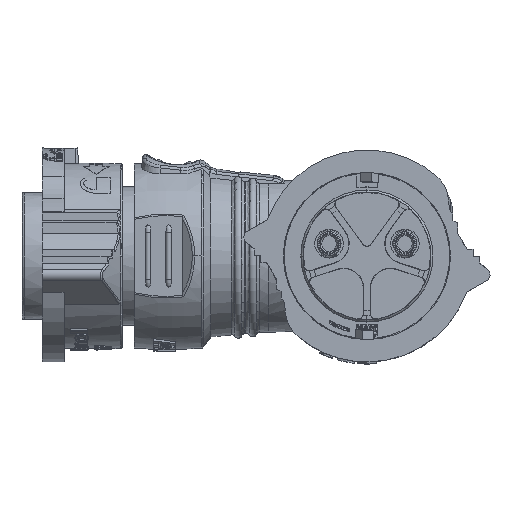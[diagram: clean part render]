
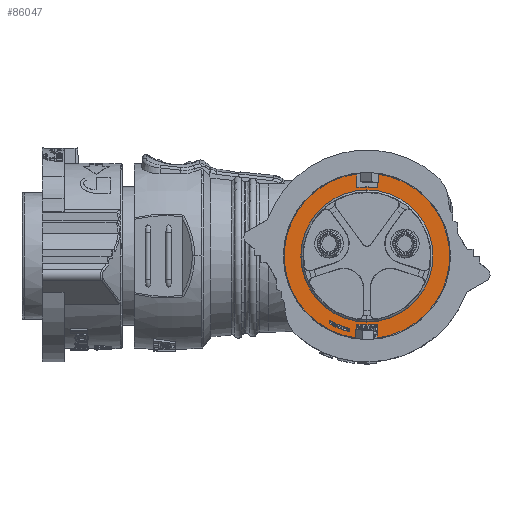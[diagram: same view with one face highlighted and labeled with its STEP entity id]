
A CAD part, left-side view. The second image highlights one B-rep face of the part: STEP entity #86047.
In plain terms, the highlighted planar face has unit normal (-1, 0, 0).
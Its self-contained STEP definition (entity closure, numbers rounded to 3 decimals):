
#31057=DIRECTION('',(0.,0.,1.));
#31058=VECTOR('',#31057,2.019);
#31059=CARTESIAN_POINT('',(8.25,-1.5,-12.007));
#31060=LINE('',#31059,#31058);
#31061=CARTESIAN_POINT('',(8.25,0.,0.));
#31062=DIRECTION('',(1.,0.,0.));
#31063=DIRECTION('',(0.,-0.149,-0.989));
#31064=AXIS2_PLACEMENT_3D('',#31061,#31062,#31063);
#31066=DIRECTION('',(0.,0.,1.));
#31067=VECTOR('',#31066,2.019);
#31068=CARTESIAN_POINT('',(8.25,1.5,-12.007));
#31069=LINE('',#31068,#31067);
#31070=DIRECTION('',(0.,0.,-1.));
#31071=VECTOR('',#31070,2.019);
#31072=CARTESIAN_POINT('',(8.25,1.5,12.007));
#31073=LINE('',#31072,#31071);
#31074=CARTESIAN_POINT('',(8.25,0.,0.));
#31075=DIRECTION('',(1.,0.,0.));
#31076=DIRECTION('',(0.,0.149,0.989));
#31077=AXIS2_PLACEMENT_3D('',#31074,#31075,#31076);
#31079=DIRECTION('',(0.,0.,-1.));
#31080=VECTOR('',#31079,2.019);
#31081=CARTESIAN_POINT('',(8.25,-1.5,12.007));
#31082=LINE('',#31081,#31080);
#31083=DIRECTION('',(0.,0.,-1.));
#31084=VECTOR('',#31083,0.547);
#31085=CARTESIAN_POINT('',(8.25,5.5,-9.382));
#31086=LINE('',#31085,#31084);
#31087=CARTESIAN_POINT('',(8.25,0.,0.));
#31088=DIRECTION('',(-1.,0.,0.));
#31089=DIRECTION('',(0.,0.485,-0.875));
#31090=AXIS2_PLACEMENT_3D('',#31087,#31088,#31089);
#31092=DIRECTION('',(0.,0.,1.));
#31093=VECTOR('',#31092,0.488);
#31094=CARTESIAN_POINT('',(8.25,2.5,-11.071));
#31095=LINE('',#31094,#31093);
#31096=CARTESIAN_POINT('',(8.25,0.,0.));
#31097=DIRECTION('',(-1.,0.,0.));
#31098=DIRECTION('',(0.,0.506,-0.863));
#31099=AXIS2_PLACEMENT_3D('',#31096,#31097,#31098);
#31101=DIRECTION('',(0.,1.,0.));
#31102=VECTOR('',#31101,0.075);
#31103=CARTESIAN_POINT('',(8.25,-9.437,0.5));
#31104=LINE('',#31103,#31102);
#31105=DIRECTION('',(0.,0.,1.));
#31106=VECTOR('',#31105,0.075);
#31107=CARTESIAN_POINT('',(8.25,-0.5,9.362));
#31108=LINE('',#31107,#31106);
#31109=CARTESIAN_POINT('',(8.25,0.,0.));
#31110=DIRECTION('',(-1.,0.,0.));
#31111=DIRECTION('',(0.,-0.053,0.999));
#31112=AXIS2_PLACEMENT_3D('',#31109,#31110,#31111);
#31114=DIRECTION('',(0.,0.,-1.));
#31115=VECTOR('',#31114,0.075);
#31116=CARTESIAN_POINT('',(8.25,0.5,9.437));
#31117=LINE('',#31116,#31115);
#31118=DIRECTION('',(0.,1.,0.));
#31119=VECTOR('',#31118,0.075);
#31120=CARTESIAN_POINT('',(8.25,9.362,0.5));
#31121=LINE('',#31120,#31119);
#31122=CARTESIAN_POINT('',(8.25,0.,0.));
#31123=DIRECTION('',(-1.,0.,0.));
#31124=DIRECTION('',(0.,0.999,0.053));
#31125=AXIS2_PLACEMENT_3D('',#31122,#31123,#31124);
#31127=DIRECTION('',(0.,-1.,0.));
#31128=VECTOR('',#31127,0.075);
#31129=CARTESIAN_POINT('',(8.25,9.437,-0.5));
#31130=LINE('',#31129,#31128);
#31131=DIRECTION('',(0.,0.,-1.));
#31132=VECTOR('',#31131,0.075);
#31133=CARTESIAN_POINT('',(8.25,0.5,-9.362));
#31134=LINE('',#31133,#31132);
#31135=CARTESIAN_POINT('',(8.25,0.,0.));
#31136=DIRECTION('',(-1.,0.,0.));
#31137=DIRECTION('',(0.,0.053,-0.999));
#31138=AXIS2_PLACEMENT_3D('',#31135,#31136,#31137);
#31140=DIRECTION('',(0.,0.,1.));
#31141=VECTOR('',#31140,0.075);
#31142=CARTESIAN_POINT('',(8.25,-0.5,-9.437));
#31143=LINE('',#31142,#31141);
#31144=DIRECTION('',(0.,-1.,0.));
#31145=VECTOR('',#31144,0.075);
#31146=CARTESIAN_POINT('',(8.25,-9.362,-0.5));
#31147=LINE('',#31146,#31145);
#31148=CARTESIAN_POINT('',(8.25,0.,0.));
#31149=DIRECTION('',(-1.,0.,0.));
#31150=DIRECTION('',(0.,-0.999,-0.053));
#31151=AXIS2_PLACEMENT_3D('',#31148,#31149,#31150);
#31153=CARTESIAN_POINT('',(8.25,0.,0.));
#31154=DIRECTION('',(-1.,0.,0.));
#31155=DIRECTION('',(0.,-0.124,-0.992));
#31156=AXIS2_PLACEMENT_3D('',#31153,#31154,#31155);
#31243=CARTESIAN_POINT('',(8.25,0.,0.));
#31244=DIRECTION('',(1.,0.,0.));
#31245=DIRECTION('',(0.,0.124,-0.992));
#31246=AXIS2_PLACEMENT_3D('',#31243,#31244,#31245);
#43931=CARTESIAN_POINT('',(8.25,-9.437,0.5));
#43990=CARTESIAN_POINT('',(8.25,-9.362,0.5));
#44003=CARTESIAN_POINT('',(8.25,-0.5,9.362));
#44005=CARTESIAN_POINT('',(8.25,0.,0.));
#44006=DIRECTION('',(1.,0.,0.));
#44007=DIRECTION('',(0.,-0.053,0.999));
#44008=AXIS2_PLACEMENT_3D('',#44005,#44006,#44007);
#44010=CARTESIAN_POINT('',(8.25,-0.5,9.437));
#44017=CARTESIAN_POINT('',(8.25,0.5,9.437));
#44024=CARTESIAN_POINT('',(8.25,0.5,9.362));
#44037=CARTESIAN_POINT('',(8.25,9.362,0.5));
#44039=CARTESIAN_POINT('',(8.25,0.,0.));
#44040=DIRECTION('',(1.,0.,0.));
#44041=DIRECTION('',(0.,0.999,0.053));
#44042=AXIS2_PLACEMENT_3D('',#44039,#44040,#44041);
#44044=CARTESIAN_POINT('',(8.25,9.437,0.5));
#44051=CARTESIAN_POINT('',(8.25,9.437,-0.5));
#44058=CARTESIAN_POINT('',(8.25,9.362,-0.5));
#44068=CARTESIAN_POINT('',(8.25,0.5,-9.362));
#44073=CARTESIAN_POINT('',(8.25,0.,0.));
#44074=DIRECTION('',(1.,0.,0.));
#44075=DIRECTION('',(0.,0.053,-0.999));
#44076=AXIS2_PLACEMENT_3D('',#44073,#44074,#44075);
#44095=CARTESIAN_POINT('',(8.25,-9.362,-0.5));
#44097=CARTESIAN_POINT('',(8.25,0.,0.));
#44098=DIRECTION('',(1.,0.,0.));
#44099=DIRECTION('',(0.,-0.999,-0.053));
#44100=AXIS2_PLACEMENT_3D('',#44097,#44098,#44099);
#44105=CARTESIAN_POINT('',(8.25,-0.5,-9.362));
#44112=CARTESIAN_POINT('',(8.25,-9.437,-0.5));
#61430=CARTESIAN_POINT('',(8.25,-1.5,-12.007));
#61431=CARTESIAN_POINT('',(8.25,-1.5,12.007));
#61432=VERTEX_POINT('',#61430);
#61433=VERTEX_POINT('',#61431);
#61442=CARTESIAN_POINT('',(8.25,1.5,-12.007));
#61443=CARTESIAN_POINT('',(8.25,1.5,12.007));
#61444=VERTEX_POINT('',#61442);
#61445=VERTEX_POINT('',#61443);
#61494=CARTESIAN_POINT('',(8.25,5.5,-9.382));
#61495=CARTESIAN_POINT('',(8.25,5.5,-9.928));
#61496=VERTEX_POINT('',#61494);
#61497=VERTEX_POINT('',#61495);
#61498=CARTESIAN_POINT('',(8.25,2.5,-11.071));
#61499=VERTEX_POINT('',#61498);
#61500=CARTESIAN_POINT('',(8.25,2.5,-10.584));
#61501=VERTEX_POINT('',#61500);
#61508=CARTESIAN_POINT('',(8.25,1.5,9.988));
#61509=CARTESIAN_POINT('',(8.25,-1.5,9.988));
#61510=VERTEX_POINT('',#61508);
#61511=VERTEX_POINT('',#61509);
#61512=CARTESIAN_POINT('',(8.25,-1.5,-9.988));
#61513=VERTEX_POINT('',#61512);
#61514=CARTESIAN_POINT('',(8.25,1.5,-9.988));
#61515=VERTEX_POINT('',#61514);
#61657=VERTEX_POINT('',#44105);
#61658=VERTEX_POINT('',#44068);
#61664=CARTESIAN_POINT('',(8.25,-0.5,-9.437));
#61665=VERTEX_POINT('',#61664);
#61666=CARTESIAN_POINT('',(8.25,0.5,-9.437));
#61667=VERTEX_POINT('',#61666);
#61668=VERTEX_POINT('',#44058);
#61671=VERTEX_POINT('',#44037);
#61676=VERTEX_POINT('',#44051);
#61677=VERTEX_POINT('',#44044);
#61678=VERTEX_POINT('',#44024);
#61681=VERTEX_POINT('',#44003);
#61686=VERTEX_POINT('',#44017);
#61687=VERTEX_POINT('',#44010);
#61688=VERTEX_POINT('',#43990);
#61691=VERTEX_POINT('',#44095);
#61696=VERTEX_POINT('',#43931);
#61697=VERTEX_POINT('',#44112);
#85984=CARTESIAN_POINT('',(8.25,0.,0.));
#85985=DIRECTION('',(-1.,0.,0.));
#85986=DIRECTION('',(0.,0.,1.));
#85987=AXIS2_PLACEMENT_3D('',#85984,#85985,#85986);
#85988=PLANE('',#85987);
#85990=ORIENTED_EDGE('',*,*,#85989,.F.);
#85992=ORIENTED_EDGE('',*,*,#85991,.T.);
#85993=ORIENTED_EDGE('',*,*,#85072,.T.);
#85995=ORIENTED_EDGE('',*,*,#85994,.F.);
#85997=ORIENTED_EDGE('',*,*,#85996,.T.);
#85999=ORIENTED_EDGE('',*,*,#85998,.T.);
#86000=ORIENTED_EDGE('',*,*,#85080,.T.);
#86002=ORIENTED_EDGE('',*,*,#86001,.F.);
#86003=EDGE_LOOP('',(#85990,#85992,#85993,#85995,#85997,#85999,#86000,#86002));
#86004=FACE_OUTER_BOUND('',#86003,.F.);
#86005=ORIENTED_EDGE('',*,*,#85975,.T.);
#86007=ORIENTED_EDGE('',*,*,#86006,.T.);
#86009=ORIENTED_EDGE('',*,*,#86008,.T.);
#86010=ORIENTED_EDGE('',*,*,#85918,.F.);
#86011=EDGE_LOOP('',(#86005,#86007,#86009,#86010));
#86012=FACE_BOUND('',#86011,.F.);
#86014=ORIENTED_EDGE('',*,*,#86013,.T.);
#86016=ORIENTED_EDGE('',*,*,#86015,.F.);
#86018=ORIENTED_EDGE('',*,*,#86017,.T.);
#86020=ORIENTED_EDGE('',*,*,#86019,.T.);
#86022=ORIENTED_EDGE('',*,*,#86021,.T.);
#86024=ORIENTED_EDGE('',*,*,#86023,.F.);
#86026=ORIENTED_EDGE('',*,*,#86025,.T.);
#86028=ORIENTED_EDGE('',*,*,#86027,.T.);
#86030=ORIENTED_EDGE('',*,*,#86029,.T.);
#86032=ORIENTED_EDGE('',*,*,#86031,.F.);
#86034=ORIENTED_EDGE('',*,*,#86033,.T.);
#86036=ORIENTED_EDGE('',*,*,#86035,.T.);
#86038=ORIENTED_EDGE('',*,*,#86037,.T.);
#86040=ORIENTED_EDGE('',*,*,#86039,.F.);
#86042=ORIENTED_EDGE('',*,*,#86041,.T.);
#86044=ORIENTED_EDGE('',*,*,#86043,.T.);
#86045=EDGE_LOOP('',(#86014,#86016,#86018,#86020,#86022,#86024,#86026,#86028,
#86030,#86032,#86034,#86036,#86038,#86040,#86042,#86044));
#86046=FACE_BOUND('',#86045,.F.);
#86047=ADVANCED_FACE('',(#86004,#86012,#86046),#85988,.T.);
#31065=CIRCLE('',#31064,10.1);
#31078=CIRCLE('',#31077,10.1);
#31091=CIRCLE('',#31090,11.35);
#31100=CIRCLE('',#31099,10.875);
#31113=CIRCLE('',#31112,9.45);
#31126=CIRCLE('',#31125,9.45);
#31139=CIRCLE('',#31138,9.45);
#31152=CIRCLE('',#31151,9.45);
#31157=CIRCLE('',#31156,12.1);
#31247=CIRCLE('',#31246,12.1);
#44009=CIRCLE('',#44008,9.375);
#44043=CIRCLE('',#44042,9.375);
#44077=CIRCLE('',#44076,9.375);
#44101=CIRCLE('',#44100,9.375);
#85072=EDGE_CURVE('',#61513,#61515,#31065,.T.);
#85080=EDGE_CURVE('',#61510,#61511,#31078,.T.);
#85918=EDGE_CURVE('',#61496,#61501,#31100,.T.);
#85975=EDGE_CURVE('',#61496,#61497,#31086,.T.);
#85989=EDGE_CURVE('',#61432,#61433,#31157,.T.);
#85991=EDGE_CURVE('',#61432,#61513,#31060,.T.);
#85994=EDGE_CURVE('',#61444,#61515,#31069,.T.);
#85996=EDGE_CURVE('',#61444,#61445,#31247,.T.);
#85998=EDGE_CURVE('',#61445,#61510,#31073,.T.);
#86001=EDGE_CURVE('',#61433,#61511,#31082,.T.);
#86006=EDGE_CURVE('',#61497,#61499,#31091,.T.);
#86008=EDGE_CURVE('',#61499,#61501,#31095,.T.);
#86013=EDGE_CURVE('',#61696,#61688,#31104,.T.);
#86015=EDGE_CURVE('',#61681,#61688,#44009,.T.);
#86017=EDGE_CURVE('',#61681,#61687,#31108,.T.);
#86019=EDGE_CURVE('',#61687,#61686,#31113,.T.);
#86021=EDGE_CURVE('',#61686,#61678,#31117,.T.);
#86023=EDGE_CURVE('',#61671,#61678,#44043,.T.);
#86025=EDGE_CURVE('',#61671,#61677,#31121,.T.);
#86027=EDGE_CURVE('',#61677,#61676,#31126,.T.);
#86029=EDGE_CURVE('',#61676,#61668,#31130,.T.);
#86031=EDGE_CURVE('',#61658,#61668,#44077,.T.);
#86033=EDGE_CURVE('',#61658,#61667,#31134,.T.);
#86035=EDGE_CURVE('',#61667,#61665,#31139,.T.);
#86037=EDGE_CURVE('',#61665,#61657,#31143,.T.);
#86039=EDGE_CURVE('',#61691,#61657,#44101,.T.);
#86041=EDGE_CURVE('',#61691,#61697,#31147,.T.);
#86043=EDGE_CURVE('',#61697,#61696,#31152,.T.);
